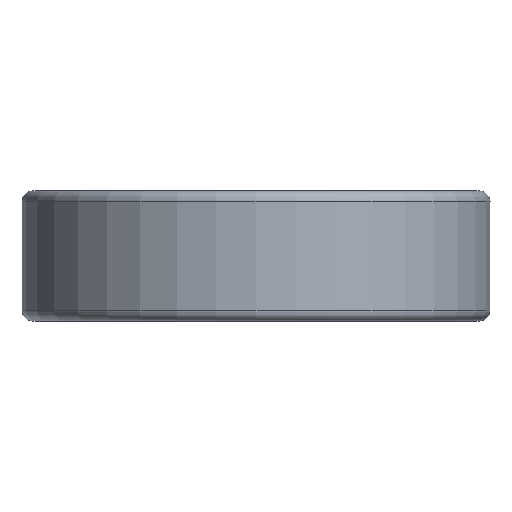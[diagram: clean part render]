
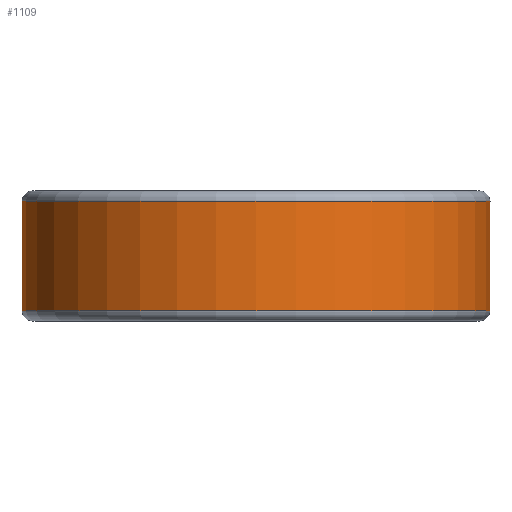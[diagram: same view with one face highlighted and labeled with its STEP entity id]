
A CAD part, left-side view. The second image highlights one B-rep face of the part: STEP entity #1109.
In plain terms, the highlighted cylindrical face has radius 27 mm (diameter 54 mm), a partial arc.
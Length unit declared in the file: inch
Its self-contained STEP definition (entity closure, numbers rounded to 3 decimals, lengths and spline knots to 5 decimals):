
#64=DIRECTION('',(0.,0.,-1.));
#65=VECTOR('',#64,0.13235);
#66=CARTESIAN_POINT('',(1.03139,0.25725,0.36145));
#67=LINE('',#66,#65);
#114=CARTESIAN_POINT('',(0.846,-0.64361,0.19371));
#115=CARTESIAN_POINT('',(0.83782,-0.65436,
0.19371));
#116=CARTESIAN_POINT('',(0.822,-0.67431,
0.19566));
#117=CARTESIAN_POINT('',(0.8001,-0.70009,
0.20371));
#118=CARTESIAN_POINT('',(0.78107,-0.72118,
0.21613));
#119=CARTESIAN_POINT('',(0.76569,-0.73742,
0.23187));
#120=CARTESIAN_POINT('',(0.75447,-0.74885,
0.2497));
#121=CARTESIAN_POINT('',(0.74736,-0.75592,
0.26851));
#122=CARTESIAN_POINT('',(0.74405,-0.75917,
0.28809));
#123=CARTESIAN_POINT('',(0.74459,-0.75865,
0.30778));
#124=CARTESIAN_POINT('',(0.74884,-0.75447,
0.32696));
#125=CARTESIAN_POINT('',(0.75678,-0.74652,
0.34516));
#126=CARTESIAN_POINT('',(0.76841,-0.73458,
0.36189));
#127=CARTESIAN_POINT('',(0.78357,-0.71846,
0.37631));
#128=CARTESIAN_POINT('',(0.80189,-0.69802,
0.38762));
#129=CARTESIAN_POINT('',(0.82284,-0.67327,
0.39501));
#130=CARTESIAN_POINT('',(0.8381,-0.654,
0.39684));
#131=CARTESIAN_POINT('',(0.846,-0.64361,0.39684));
#133=CARTESIAN_POINT('',(0.846,-0.64361,0.39684));
#134=CARTESIAN_POINT('',(0.85436,-0.63263,
0.39684));
#135=CARTESIAN_POINT('',(0.86978,-0.61147,
0.39484));
#136=CARTESIAN_POINT('',(0.88943,-0.58244,
0.38779));
#137=CARTESIAN_POINT('',(0.90584,-0.55649,
0.37803));
#138=CARTESIAN_POINT('',(0.91927,-0.53393,
0.36631));
#139=CARTESIAN_POINT('',(0.93007,-0.51484,
0.3531));
#140=CARTESIAN_POINT('',(0.93847,-0.4993,
0.3384));
#141=CARTESIAN_POINT('',(0.94445,-0.48785,
0.32231));
#142=CARTESIAN_POINT('',(0.9479,-0.48108,
0.30316));
#143=CARTESIAN_POINT('',(0.94744,-0.482,
0.2832));
#144=CARTESIAN_POINT('',(0.9435,-0.48969,
0.26511));
#145=CARTESIAN_POINT('',(0.93731,-0.50148,
0.24982));
#146=CARTESIAN_POINT('',(0.9289,-0.51694,
0.23582));
#147=CARTESIAN_POINT('',(0.91816,-0.53583,
0.22316));
#148=CARTESIAN_POINT('',(0.90485,-0.55808,
0.21182));
#149=CARTESIAN_POINT('',(0.88864,-0.58363,
0.20238));
#150=CARTESIAN_POINT('',(0.86929,-0.61215,
0.19566));
#151=CARTESIAN_POINT('',(0.85418,-0.63286,
0.19371));
#152=CARTESIAN_POINT('',(0.846,-0.64361,0.19371));
#154=CARTESIAN_POINT('',(0.,0.,0.54331));
#155=DIRECTION('',(0.,0.,1.));
#156=DIRECTION('',(1.,0.029,0.));
#157=AXIS2_PLACEMENT_3D('',#154,#155,#156);
#159=DIRECTION('',(0.,0.,1.));
#160=VECTOR('',#159,0.03444);
#161=CARTESIAN_POINT('',(1.03139,0.25725,0.19466));
#162=LINE('',#161,#160);
#163=CARTESIAN_POINT('',(1.03139,0.25725,0.39589));
#164=CARTESIAN_POINT('',(1.02144,0.29714,0.41423));
#165=CARTESIAN_POINT('',(0.99769,0.37257,
0.44535));
#166=CARTESIAN_POINT('',(0.95487,0.47075,
0.47845));
#167=CARTESIAN_POINT('',(0.90823,0.55482,
0.49884));
#168=CARTESIAN_POINT('',(0.86032,0.62608,
0.50752));
#169=CARTESIAN_POINT('',(0.81348,0.68546,
0.50537));
#170=CARTESIAN_POINT('',(0.76981,0.73385,
0.49362));
#171=CARTESIAN_POINT('',(0.73116,0.7721,
0.47389));
#172=CARTESIAN_POINT('',(0.69887,0.80126,
0.4482));
#173=CARTESIAN_POINT('',(0.67318,0.82284,
0.41826));
#174=CARTESIAN_POINT('',(0.65397,0.8381,
0.38523));
#175=CARTESIAN_POINT('',(0.64119,0.84786,
0.3501));
#176=CARTESIAN_POINT('',(0.63481,0.85263,
0.31375));
#177=CARTESIAN_POINT('',(0.63479,0.85264,
0.27699));
#178=CARTESIAN_POINT('',(0.64114,0.8479,
0.24064));
#179=CARTESIAN_POINT('',(0.65389,0.83816,
0.2055));
#180=CARTESIAN_POINT('',(0.67306,0.82293,
0.17245));
#181=CARTESIAN_POINT('',(0.69873,0.80138,
0.14249));
#182=CARTESIAN_POINT('',(0.73098,0.77228,
0.11679));
#183=CARTESIAN_POINT('',(0.76954,0.73413,
0.09703));
#184=CARTESIAN_POINT('',(0.81316,0.68583,
0.08523));
#185=CARTESIAN_POINT('',(0.85996,0.62657,
0.08301));
#186=CARTESIAN_POINT('',(0.90791,0.55533,
0.09161));
#187=CARTESIAN_POINT('',(0.95462,0.47127,
0.11195));
#188=CARTESIAN_POINT('',(0.9976,0.37285,
0.14509));
#189=CARTESIAN_POINT('',(1.02142,0.29725,0.17628));
#190=CARTESIAN_POINT('',(1.03139,0.25725,0.19466));
#192=DIRECTION('',(0.,0.,1.));
#193=VECTOR('',#192,0.03444);
#194=CARTESIAN_POINT('',(1.03139,0.25725,0.36145));
#195=LINE('',#194,#193);
#229=DIRECTION('',(0.,0.,1.));
#230=VECTOR('',#229,0.49607);
#231=CARTESIAN_POINT('',(1.06253,-0.0313,
0.04724));
#232=LINE('',#231,#230);
#233=CARTESIAN_POINT('',(1.06253,-0.0313,
0.54331));
#309=CARTESIAN_POINT('',(1.06253,0.0313,0.54331));
#319=DIRECTION('',(0.,0.,-1.));
#320=VECTOR('',#319,0.49607);
#321=CARTESIAN_POINT('',(1.06253,0.0313,0.54331));
#322=LINE('',#321,#320);
#331=CARTESIAN_POINT('',(1.06253,0.0313,0.04724));
#601=CARTESIAN_POINT('',(0.,0.,0.04724));
#602=DIRECTION('',(0.,0.,-1.));
#603=DIRECTION('',(1.,-0.029,0.));
#604=AXIS2_PLACEMENT_3D('',#601,#602,#603);
#727=CARTESIAN_POINT('',(1.03139,0.25725,0.2291));
#728=VERTEX_POINT('',#727);
#729=CARTESIAN_POINT('',(1.03139,0.25725,0.36145));
#730=VERTEX_POINT('',#729);
#823=VERTEX_POINT('',#309);
#825=VERTEX_POINT('',#331);
#841=VERTEX_POINT('',#233);
#842=VERTEX_POINT('',#114);
#843=VERTEX_POINT('',#131);
#844=CARTESIAN_POINT('',(1.06253,-0.0313,
0.04724));
#845=VERTEX_POINT('',#844);
#846=CARTESIAN_POINT('',(1.03139,0.25725,0.19466));
#847=VERTEX_POINT('',#846);
#848=CARTESIAN_POINT('',(1.03139,0.25725,0.39589));
#849=VERTEX_POINT('',#848);
#1081=CARTESIAN_POINT('',(0.,0.,0.59055));
#1082=DIRECTION('',(0.,0.,-1.));
#1083=DIRECTION('',(-1.,0.,0.));
#1084=AXIS2_PLACEMENT_3D('',#1081,#1082,#1083);
#1085=CYLINDRICAL_SURFACE('',#1084,1.06299);
#1087=ORIENTED_EDGE('',*,*,#1086,.T.);
#1089=ORIENTED_EDGE('',*,*,#1088,.F.);
#1091=ORIENTED_EDGE('',*,*,#1090,.T.);
#1093=ORIENTED_EDGE('',*,*,#1092,.F.);
#1094=EDGE_LOOP('',(#1087,#1089,#1091,#1093));
#1095=FACE_OUTER_BOUND('',#1094,.F.);
#1097=ORIENTED_EDGE('',*,*,#1096,.F.);
#1099=ORIENTED_EDGE('',*,*,#1098,.F.);
#1100=EDGE_LOOP('',(#1097,#1099));
#1101=FACE_BOUND('',#1100,.F.);
#1102=ORIENTED_EDGE('',*,*,#900,.F.);
#1104=ORIENTED_EDGE('',*,*,#1103,.F.);
#1105=ORIENTED_EDGE('',*,*,#896,.F.);
#1106=ORIENTED_EDGE('',*,*,#942,.T.);
#1107=EDGE_LOOP('',(#1102,#1104,#1105,#1106));
#1108=FACE_BOUND('',#1107,.F.);
#132=B_SPLINE_CURVE_WITH_KNOTS('',3,(#114,#115,#116,#117,#118,#119,#120,#121,
#122,#123,#124,#125,#126,#127,#128,#129,#130,#131),.UNSPECIFIED.,.F.,.F.,(4,1,1,
1,1,1,1,1,1,1,1,1,1,1,1,4),(0.,0.06667,0.13333,0.2,
0.26667,0.33333,0.4,0.46667,0.53333,
0.6,0.66667,0.73333,0.8,0.86667,
0.93333,1.),.UNSPECIFIED.);
#153=B_SPLINE_CURVE_WITH_KNOTS('',3,(#133,#134,#135,#136,#137,#138,#139,#140,
#141,#142,#143,#144,#145,#146,#147,#148,#149,#150,#151,#152),.UNSPECIFIED.,.F.,
.F.,(4,1,1,1,1,1,1,1,1,1,1,1,1,1,1,1,1,4),(0.,0.05882,
0.11765,0.17647,0.23529,0.29412,
0.35294,0.41176,0.47059,0.52941,
0.58824,0.64706,0.70588,0.76471,
0.82353,0.88235,0.94118,1.),.UNSPECIFIED.);
#158=CIRCLE('',#157,1.06299);
#191=B_SPLINE_CURVE_WITH_KNOTS('',3,(#163,#164,#165,#166,#167,#168,#169,#170,
#171,#172,#173,#174,#175,#176,#177,#178,#179,#180,#181,#182,#183,#184,#185,#186,
#187,#188,#189,#190),.UNSPECIFIED.,.F.,.F.,(4,1,1,1,1,1,1,1,1,1,1,1,1,1,1,1,1,1,
1,1,1,1,1,1,1,4),(0.,0.04,0.08,0.12,0.16,0.2,0.24,0.28,0.32,
0.36,0.4,0.44,0.48,0.52,0.56,0.6,0.64,0.68,0.72,0.76,
0.8,0.84,0.88,0.92,0.96,1.),.UNSPECIFIED.);
#605=CIRCLE('',#604,1.06299);
#896=EDGE_CURVE('',#730,#849,#195,.T.);
#900=EDGE_CURVE('',#847,#728,#162,.T.);
#942=EDGE_CURVE('',#730,#728,#67,.T.);
#1086=EDGE_CURVE('',#823,#841,#158,.T.);
#1088=EDGE_CURVE('',#845,#841,#232,.T.);
#1090=EDGE_CURVE('',#845,#825,#605,.T.);
#1092=EDGE_CURVE('',#823,#825,#322,.T.);
#1096=EDGE_CURVE('',#842,#843,#132,.T.);
#1098=EDGE_CURVE('',#843,#842,#153,.T.);
#1103=EDGE_CURVE('',#849,#847,#191,.T.);
#1109=ADVANCED_FACE('',(#1095,#1101,#1108),#1085,.T.);
